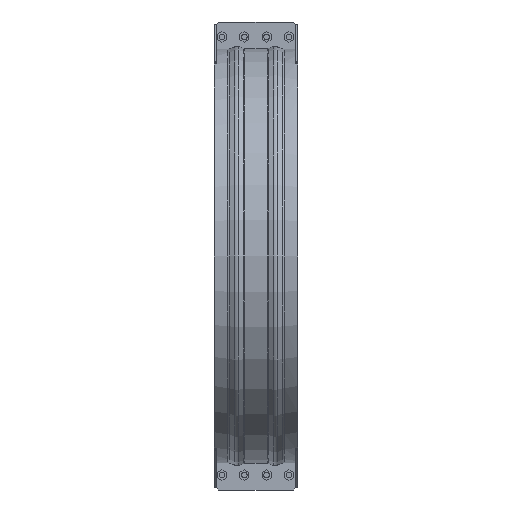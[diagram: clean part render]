
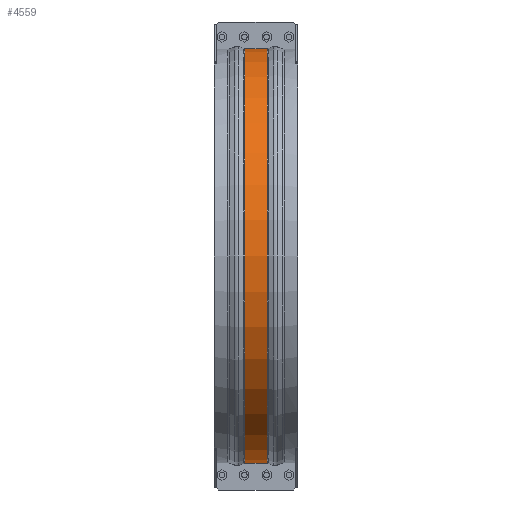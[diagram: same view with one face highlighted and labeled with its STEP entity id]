
A CAD part, front view. The second image highlights one B-rep face of the part: STEP entity #4559.
In plain terms, the highlighted cylindrical face has radius 930.577 mm (diameter 1861.15 mm), a partial arc.
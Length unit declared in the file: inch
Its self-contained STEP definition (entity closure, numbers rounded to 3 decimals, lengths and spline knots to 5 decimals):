
#414=FACE_OUTER_BOUND('',#671,.T.);
#671=EDGE_LOOP('',(#3465,#3466,#3467,#3468));
#1036=LINE('',#7017,#1485);
#1044=LINE('',#7149,#1493);
#1485=VECTOR('',#5630,0.3937);
#1493=VECTOR('',#5690,0.3937);
#1771=CIRCLE('',#4875,36.63689);
#1773=CIRCLE('',#4879,36.63689);
#2060=VERTEX_POINT('',#7009);
#2061=VERTEX_POINT('',#7016);
#2076=VERTEX_POINT('',#7134);
#2078=VERTEX_POINT('',#7147);
#2565=EDGE_CURVE('',#2061,#2060,#1036,.T.);
#2590=EDGE_CURVE('',#2076,#2061,#1771,.T.);
#2594=EDGE_CURVE('',#2078,#2060,#1773,.T.);
#2595=EDGE_CURVE('',#2078,#2076,#1044,.T.);
#3465=ORIENTED_EDGE('',*,*,#2565,.T.);
#3466=ORIENTED_EDGE('',*,*,#2594,.F.);
#3467=ORIENTED_EDGE('',*,*,#2595,.T.);
#3468=ORIENTED_EDGE('',*,*,#2590,.T.);
#4182=CYLINDRICAL_SURFACE('',#4878,36.63689);
#4559=ADVANCED_FACE('',(#414),#4182,.T.);
#4875=AXIS2_PLACEMENT_3D('',#7135,#5679,#5680);
#4878=AXIS2_PLACEMENT_3D('',#7146,#5686,#5687);
#4879=AXIS2_PLACEMENT_3D('',#7148,#5688,#5689);
#5630=DIRECTION('',(1.,0.,0.));
#5679=DIRECTION('center_axis',(1.,0.,0.));
#5680=DIRECTION('ref_axis',(0.,0.,-1.));
#5686=DIRECTION('center_axis',(1.,0.,0.));
#5687=DIRECTION('ref_axis',(0.,-1.,0.));
#5688=DIRECTION('center_axis',(1.,0.,0.));
#5689=DIRECTION('ref_axis',(0.,0.,-1.));
#5690=DIRECTION('',(-1.,0.,0.));
#7009=CARTESIAN_POINT('',(1.95101,-0.375,-36.63497));
#7016=CARTESIAN_POINT('',(-1.95101,-0.375,-36.63497));
#7017=CARTESIAN_POINT('',(0.,-0.375,-36.63497));
#7134=CARTESIAN_POINT('',(-1.95101,-0.375,36.63497));
#7135=CARTESIAN_POINT('Origin',(-1.95101,0.,0.));
#7146=CARTESIAN_POINT('Origin',(0.,0.,0.));
#7147=CARTESIAN_POINT('',(1.95101,-0.375,36.63497));
#7148=CARTESIAN_POINT('Origin',(1.95101,0.,0.));
#7149=CARTESIAN_POINT('',(0.,-0.375,36.63497));
